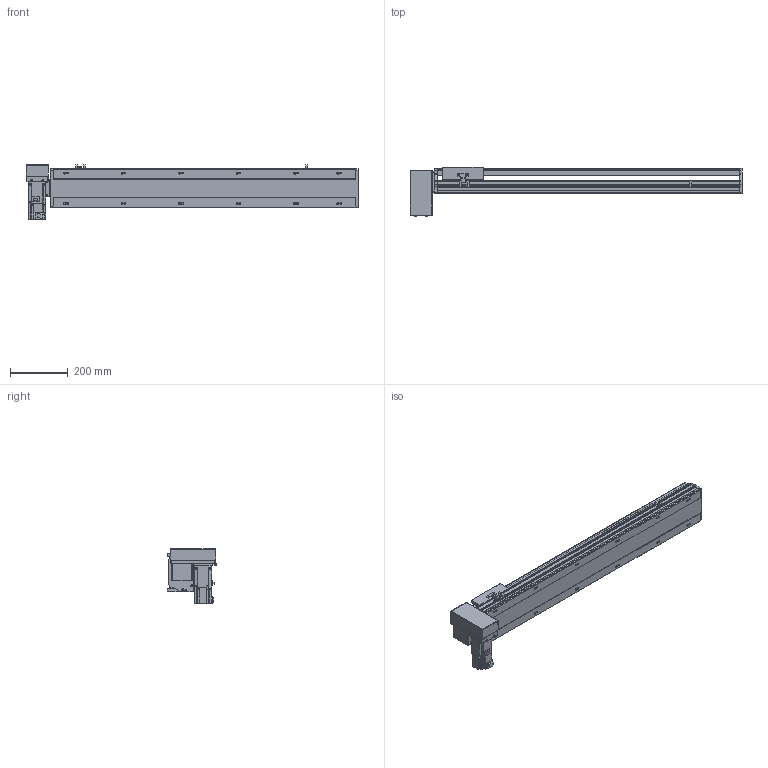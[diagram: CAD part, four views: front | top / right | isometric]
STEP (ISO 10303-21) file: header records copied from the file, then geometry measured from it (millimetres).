
FILE_DESCRIPTION( ( 'STEP AP214' ), '1' );
FILE_NAME( 'x:/temp/worker_6/temp/exporttempdir_5396_169_BExde/format_0/PBS140S-P40-S800-RD-T40-C1-N(0).stp', '2022-06-09T00:42:43', ( 'License CC BY-ND 4.0' ), ( 'CADENAS' ), ' ', 'PARTsolutions', ' ' );
FILE_SCHEMA( ( 'AUTOMOTIVE_DESIGN { 1 0 10303 214 1 1 1 1 }' ) );
Length unit declared in the file: millimetre
Products named in the file (7): PBS140S-P40-S800-RD-T40-C1-N(0); _PBS140S-S800()_body; _PBS140ST-RD_motors; _T40-p1; _PBS140S_sliser; _PBS140S_plant; _PBS140S_sensor
Assembly tree (8 placements, depth 2):
  PBS140S-P40-S800-RD-T40-C1-N(0)
    _PBS140S-S800()_body
    _PBS140ST-RD_motors
    _T40-p1
    _PBS140S_sliser
    _PBS140S_plant
    _PBS140S_sensor  x3
Bounding box: 1154 x 172.5 x 189.7 mm (x, y, z)
Volume: 6129188.3 mm3; surface area: 1069871.5 mm2
Topology: 8 solids, 8 shells, 1067 faces, 2831 edges, 1853 vertices
Faces by surface type: plane 690, cylinder 329, cone 38, sphere 8, torus 2
Full cylindrical faces by diameter (mm): 3.242 x4, 4 x2, 4.134 x4, 4.4 x8, 4.5 x2, 4.8 x4, 4.917 x20, 5.5 x7, 6 x2, 7 x14, 7.5 x8, 8 x12, 8.5 x4, 10.5 x12, 14 x1, 30 x2, 50 x2
Entity records: 39052 total; most frequent: CARTESIAN_POINT 6070, DIRECTION 5208, ORIENTED_EDGE 4942, EDGE_CURVE 2471, AXIS2_PLACEMENT_3D 1799, VERTEX_POINT 1705, LINE 1610, VECTOR 1610
